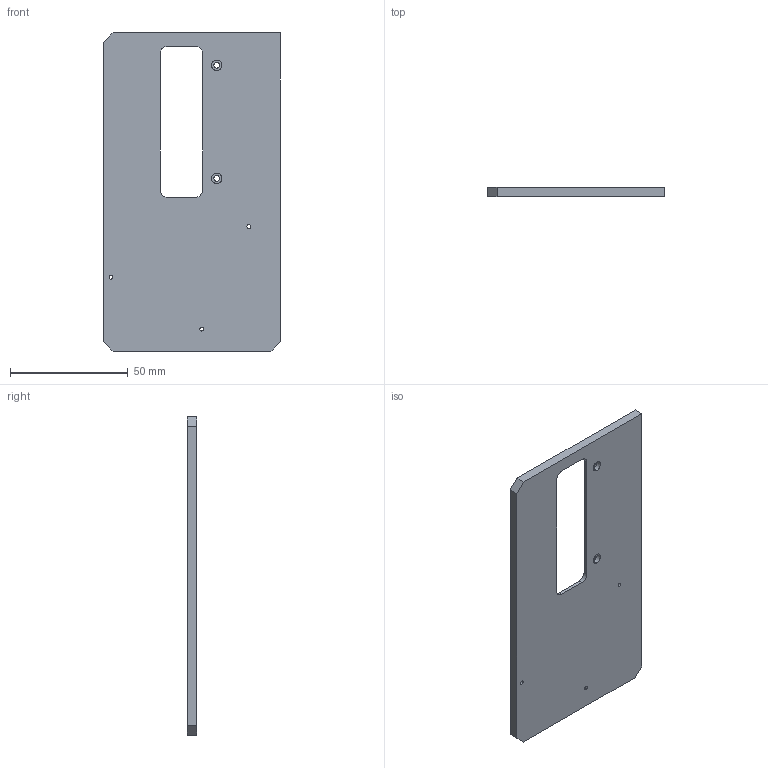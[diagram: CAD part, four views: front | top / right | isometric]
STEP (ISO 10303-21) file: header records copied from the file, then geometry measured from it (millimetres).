
FILE_DESCRIPTION (( 'STEP AP214' ), '1' );
FILE_NAME ('3010-EVM-G2-ENGINE-BASE-SS.STEP', '2017-06-20T20:13:03', ( '' ), ( '' ), 'SwSTEP 2.0', 'SolidWorks 2016', '' );
FILE_SCHEMA (( 'AUTOMOTIVE_DESIGN' ));
Length unit declared in the file: millimetre
Products named in the file (1): 3010-EVM-G2-ENGINE-BASE-SS
Bounding box: 75 x 3.97 x 135 mm (x, y, z)
Volume: 34650.4 mm3; surface area: 20118.6 mm2
Topology: 1 solids, 1 shells, 49 faces, 123 edges, 76 vertices
Faces by surface type: cylinder 22, plane 19, cone 8
Entity records: 1499 total; most frequent: DIRECTION 267, CARTESIAN_POINT 245, ORIENTED_EDGE 238, EDGE_CURVE 119, AXIS2_PLACEMENT_3D 98, VERTEX_POINT 76, LINE 71, VECTOR 71
